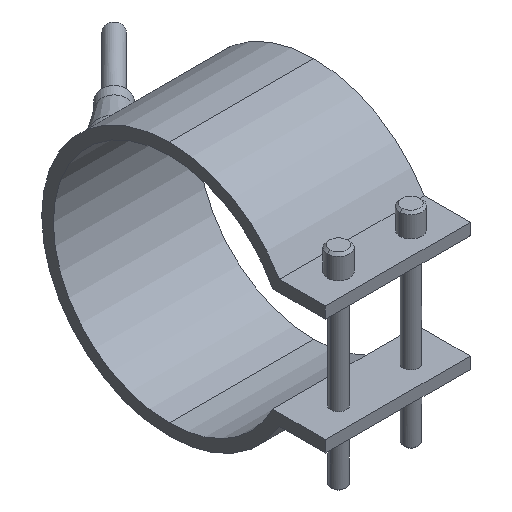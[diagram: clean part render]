
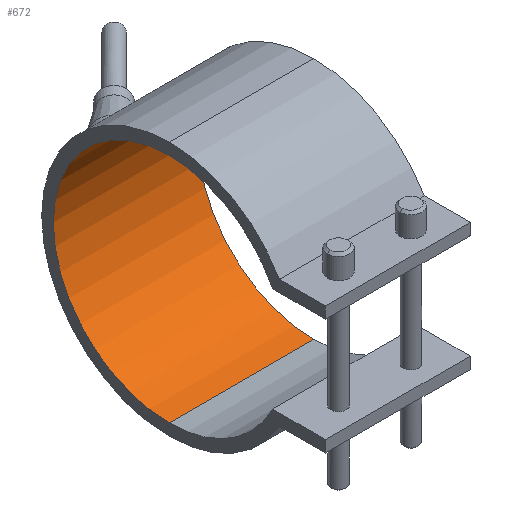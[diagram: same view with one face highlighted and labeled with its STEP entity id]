
A CAD part, isometric view. The second image highlights one B-rep face of the part: STEP entity #672.
In plain terms, the highlighted cylindrical face has radius 40 mm (diameter 80 mm), a partial arc.
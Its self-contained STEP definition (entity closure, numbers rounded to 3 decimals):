
#354=CARTESIAN_POINT('Vertex',(25.,0.,40.)) ;
#359=CARTESIAN_POINT('Axis2P3D Location',(25.,0.,0.)) ;
#363=CARTESIAN_POINT('Vertex',(25.,0.,-40.)) ;
#470=CARTESIAN_POINT('Vertex',(-25.,0.,-40.)) ;
#473=CARTESIAN_POINT('Axis2P3D Location',(-25.,0.,0.)) ;
#477=CARTESIAN_POINT('Vertex',(-25.,0.,40.)) ;
#644=CARTESIAN_POINT('Line Origine',(25.,0.,40.)) ;
#656=CARTESIAN_POINT('Axis2P3D Location',(25.,0.,0.)) ;
#661=CARTESIAN_POINT('Line Origine',(25.,0.,-40.)) ;
#360=DIRECTION('Axis2P3D Direction',(1.,0.,0.)) ;
#474=DIRECTION('Axis2P3D Direction',(1.,0.,0.)) ;
#645=DIRECTION('Vector Direction',(1.,0.,0.)) ;
#657=DIRECTION('Axis2P3D Direction',(1.,0.,-0.)) ;
#658=DIRECTION('Axis2P3D XDirection',(0.,0.,-1.)) ;
#662=DIRECTION('Vector Direction',(1.,0.,0.)) ;
#361=AXIS2_PLACEMENT_3D('Circle Axis2P3D',#359,#360,$) ;
#475=AXIS2_PLACEMENT_3D('Circle Axis2P3D',#473,#474,$) ;
#659=AXIS2_PLACEMENT_3D('Cylinder Axis2P3D',#656,#657,#658) ;
#667=ORIENTED_EDGE('',*,*,#365,.T.) ;
#668=ORIENTED_EDGE('',*,*,#648,.T.) ;
#669=ORIENTED_EDGE('',*,*,#479,.F.) ;
#670=ORIENTED_EDGE('',*,*,#665,.T.) ;
#646=VECTOR('Line Direction',#645,1.) ;
#663=VECTOR('Line Direction',#662,1.) ;
#672=ADVANCED_FACE('29080050',(#671),#660,.F.) ;
#362=CIRCLE('generated circle',#361,40.) ;
#476=CIRCLE('generated circle',#475,40.) ;
#660=CYLINDRICAL_SURFACE('generated cylinder',#659,40.) ;
#365=EDGE_CURVE('',#364,#355,#362,.T.) ;
#479=EDGE_CURVE('',#471,#478,#476,.T.) ;
#648=EDGE_CURVE('',#355,#478,#647,.F.) ;
#665=EDGE_CURVE('',#471,#364,#664,.T.) ;
#666=EDGE_LOOP('',(#667,#668,#669,#670)) ;
#671=FACE_OUTER_BOUND('',#666,.T.) ;
#647=LINE('Line',#644,#646) ;
#664=LINE('Line',#661,#663) ;
#355=VERTEX_POINT('',#354) ;
#364=VERTEX_POINT('',#363) ;
#471=VERTEX_POINT('',#470) ;
#478=VERTEX_POINT('',#477) ;
